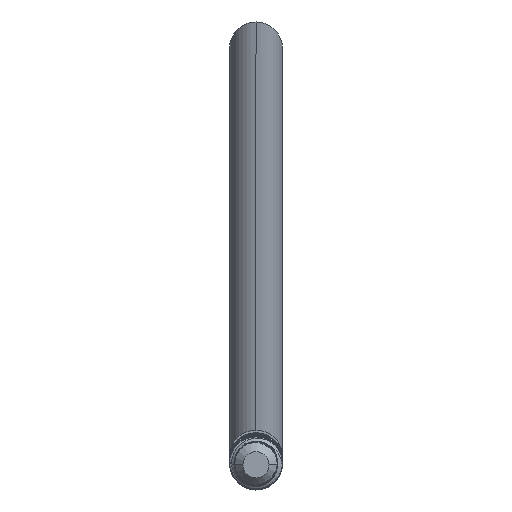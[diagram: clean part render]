
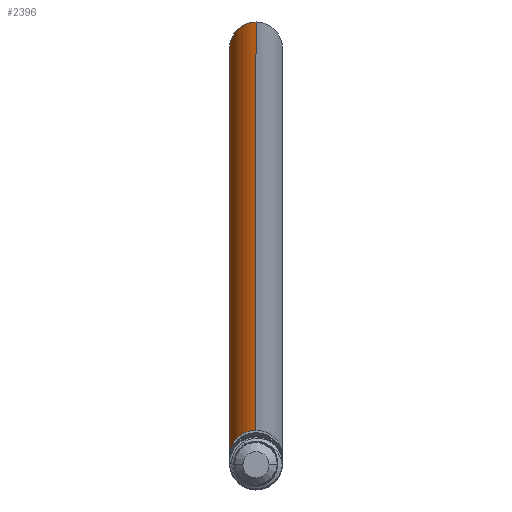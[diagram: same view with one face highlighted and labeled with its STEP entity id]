
A CAD part, left-side view. The second image highlights one B-rep face of the part: STEP entity #2396.
In plain terms, the highlighted cylindrical face has radius 3 mm (diameter 6 mm), a partial arc.
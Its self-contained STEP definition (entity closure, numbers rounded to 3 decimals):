
#1=CARTESIAN_POINT('',(600.834,0.,-141.139));
#2=DIRECTION('',(-0.997,0.,-0.077));
#3=DIRECTION('',(-0.077,0.,0.997));
#4=AXIS2_PLACEMENT_3D('',#1,#2,#3);
#393=CARTESIAN_POINT('',(3.47,0.,-187.422));
#394=DIRECTION('',(-0.997,0.,-0.077));
#395=DIRECTION('',(-0.077,0.,0.997));
#396=AXIS2_PLACEMENT_3D('',#393,#394,#395);
#398=DIRECTION('',(-0.997,0.,-0.077));
#399=VECTOR('',#398,599.154);
#400=CARTESIAN_POINT('',(600.602,0.,-138.148));
#401=LINE('',#400,#399);
#1078=DIRECTION('',(-0.997,0.,-0.077));
#1079=VECTOR('',#1078,599.154);
#1080=CARTESIAN_POINT('',(601.066,0.,-144.13));
#1081=LINE('',#1080,#1079);
#2181=CARTESIAN_POINT('',(600.602,0.,-138.148));
#2182=CARTESIAN_POINT('',(601.066,0.,-144.13));
#2183=VERTEX_POINT('',#2181);
#2184=VERTEX_POINT('',#2182);
#2254=CARTESIAN_POINT('',(3.238,0.,
-184.431));
#2255=CARTESIAN_POINT('',(3.702,0.,
-190.413));
#2256=VERTEX_POINT('',#2254);
#2257=VERTEX_POINT('',#2255);
#2382=CARTESIAN_POINT('',(600.834,0.,-141.139));
#2383=DIRECTION('',(-0.997,0.,-0.077));
#2384=DIRECTION('',(-0.077,0.,0.997));
#2385=AXIS2_PLACEMENT_3D('',#2382,#2383,#2384);
#2386=CYLINDRICAL_SURFACE('',#2385,3.);
#2388=ORIENTED_EDGE('',*,*,#2387,.T.);
#2390=ORIENTED_EDGE('',*,*,#2389,.F.);
#2391=ORIENTED_EDGE('',*,*,#2273,.F.);
#2393=ORIENTED_EDGE('',*,*,#2392,.T.);
#2394=EDGE_LOOP('',(#2388,#2390,#2391,#2393));
#2395=FACE_OUTER_BOUND('',#2394,.F.);
#2396=ADVANCED_FACE('',(#2395),#2386,.T.);
#5=CIRCLE('',#4,3.);
#397=CIRCLE('',#396,3.);
#2273=EDGE_CURVE('',#2183,#2184,#5,.T.);
#2387=EDGE_CURVE('',#2256,#2257,#397,.T.);
#2389=EDGE_CURVE('',#2184,#2257,#1081,.T.);
#2392=EDGE_CURVE('',#2183,#2256,#401,.T.);
